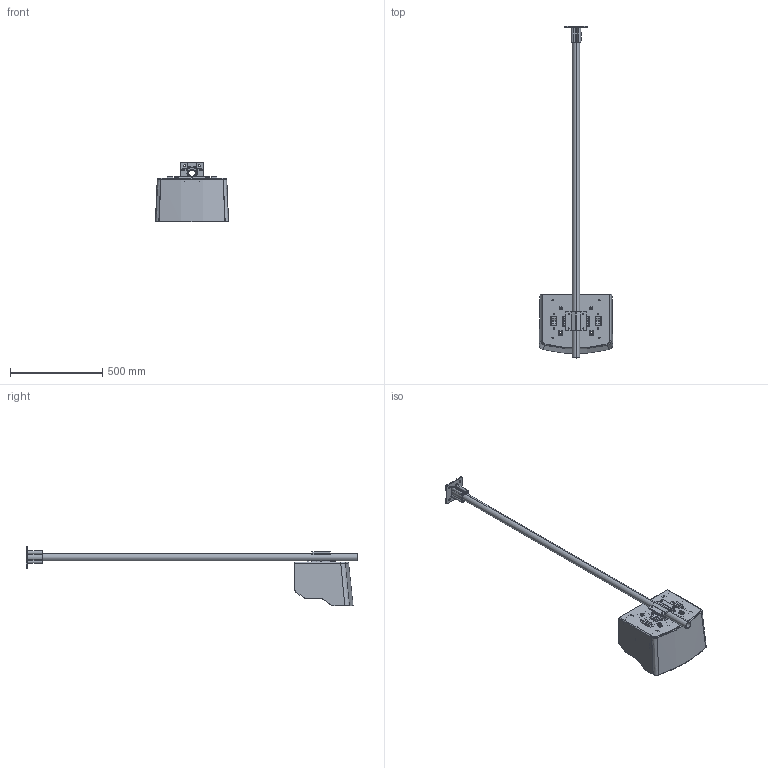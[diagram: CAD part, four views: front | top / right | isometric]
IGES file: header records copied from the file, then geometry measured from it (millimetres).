
Start section: SolidWorks IGES file using analytic representation for surfaces
Global section: file name: G:\EGK\USER\Sabine Krause\Public Group\meine_PDF\LZX957.TD.00000__001.IGS; native system: SolidWorks 2011; preprocessor: SolidWorks 2011; author: skrause; date: 110920.100158; units: millimetre
Bounding box: 397.55 x 1803 x 323.89 mm (x, y, z)
Surface area: 1283060.1 mm2 (no closed solid volume)
Topology: 0 solids, 0 shells, 1369 faces, 15296 edges, 15267 vertices
Faces by surface type: bspline 747, revolution 622
